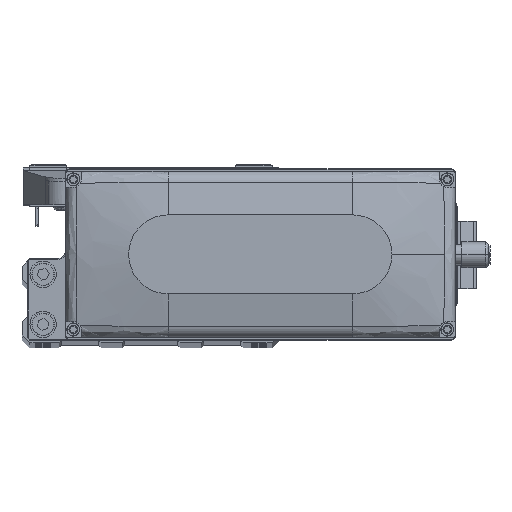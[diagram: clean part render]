
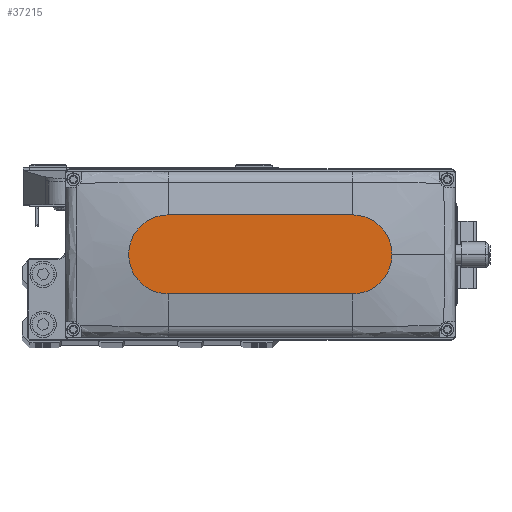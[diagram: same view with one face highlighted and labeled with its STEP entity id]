
A CAD part, top view. The second image highlights one B-rep face of the part: STEP entity #37215.
In plain terms, the highlighted planar face has unit normal (0, 0, 1).
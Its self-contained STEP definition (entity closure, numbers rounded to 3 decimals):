
#794 = DIRECTION ( 'NONE',  ( 1., 0., 0. ) ) ;
#1959 = CARTESIAN_POINT ( 'NONE',  ( 0., 0., 35. ) ) ;
#2211 = DIRECTION ( 'NONE',  ( 0., 0., 1. ) ) ;
#2738 = VECTOR ( 'NONE', #6487, 1000. ) ;
#3242 = LINE ( 'NONE', #18373, #3257 ) ;
#3257 = VECTOR ( 'NONE', #33428, 1000. ) ;
#4901 = EDGE_CURVE ( 'NONE', #34731, #19868, #33941, .T. ) ;
#6073 = AXIS2_PLACEMENT_3D ( 'NONE', #41795, #7992, #23136 ) ;
#6487 = DIRECTION ( 'NONE',  ( 1., 0., 0. ) ) ;
#7992 = DIRECTION ( 'NONE',  ( 0., 0., 1. ) ) ;
#9244 = VERTEX_POINT ( 'NONE', #18606 ) ;
#12649 = AXIS2_PLACEMENT_3D ( 'NONE', #36084, #2211, #17329 ) ;
#14474 = AXIS2_PLACEMENT_3D ( 'NONE', #1959, #17093, #32159 ) ;
#14584 = EDGE_CURVE ( 'NONE', #24043, #34731, #43441, .T. ) ;
#16421 = ORIENTED_EDGE ( 'NONE', *, *, #21643, .T. ) ;
#17093 = DIRECTION ( 'NONE',  ( 0., 0., 1. ) ) ;
#17329 = DIRECTION ( 'NONE',  ( 1., 0., 0. ) ) ;
#18373 = CARTESIAN_POINT ( 'NONE',  ( -35., 15., 35. ) ) ;
#18606 = CARTESIAN_POINT ( 'NONE',  ( -35., -15., 35. ) ) ;
#18734 = CARTESIAN_POINT ( 'NONE',  ( 50., 0., 35. ) ) ;
#18750 = EDGE_CURVE ( 'NONE', #19868, #31094, #3242, .T. ) ;
#19134 = ORIENTED_EDGE ( 'NONE', *, *, #18750, .T. ) ;
#19650 = CARTESIAN_POINT ( 'NONE',  ( 35., 0., 35. ) ) ;
#19868 = VERTEX_POINT ( 'NONE', #29075 ) ;
#20036 = CARTESIAN_POINT ( 'NONE',  ( -35., 15., 35. ) ) ;
#20812 = FACE_OUTER_BOUND ( 'NONE', #26484, .T. ) ;
#21188 = ORIENTED_EDGE ( 'NONE', *, *, #14584, .T. ) ;
#21643 = EDGE_CURVE ( 'NONE', #9244, #24043, #25338, .T. ) ;
#22264 = AXIS2_PLACEMENT_3D ( 'NONE', #19650, #34682, #794 ) ;
#23136 = DIRECTION ( 'NONE',  ( 1., 0., 0. ) ) ;
#24043 = VERTEX_POINT ( 'NONE', #46977 ) ;
#24980 = ORIENTED_EDGE ( 'NONE', *, *, #35278, .T. ) ;
#25338 = LINE ( 'NONE', #40301, #2738 ) ;
#26484 = EDGE_LOOP ( 'NONE', ( #19134, #24980, #16421, #21188, #28466 ) ) ;
#27458 = CIRCLE ( 'NONE', #6073, 15. ) ;
#28466 = ORIENTED_EDGE ( 'NONE', *, *, #4901, .T. ) ;
#29075 = CARTESIAN_POINT ( 'NONE',  ( 35., 15., 35. ) ) ;
#31094 = VERTEX_POINT ( 'NONE', #20036 ) ;
#32159 = DIRECTION ( 'NONE',  ( 1., 0., 0. ) ) ;
#33428 = DIRECTION ( 'NONE',  ( -1., 0., 0. ) ) ;
#33941 = CIRCLE ( 'NONE', #12649, 15. ) ;
#34682 = DIRECTION ( 'NONE',  ( 0., 0., 1. ) ) ;
#34731 = VERTEX_POINT ( 'NONE', #18734 ) ;
#35278 = EDGE_CURVE ( 'NONE', #31094, #9244, #27458, .T. ) ;
#35821 = PLANE ( 'NONE',  #14474 ) ;
#36084 = CARTESIAN_POINT ( 'NONE',  ( 35., 0., 35. ) ) ;
#37215 = ADVANCED_FACE ( 'NONE', ( #20812 ), #35821, .T. ) ;
#40301 = CARTESIAN_POINT ( 'NONE',  ( -35., -15., 35. ) ) ;
#41795 = CARTESIAN_POINT ( 'NONE',  ( -35., 0., 35. ) ) ;
#43441 = CIRCLE ( 'NONE', #22264, 15. ) ;
#46977 = CARTESIAN_POINT ( 'NONE',  ( 35., -15., 35. ) ) ;
